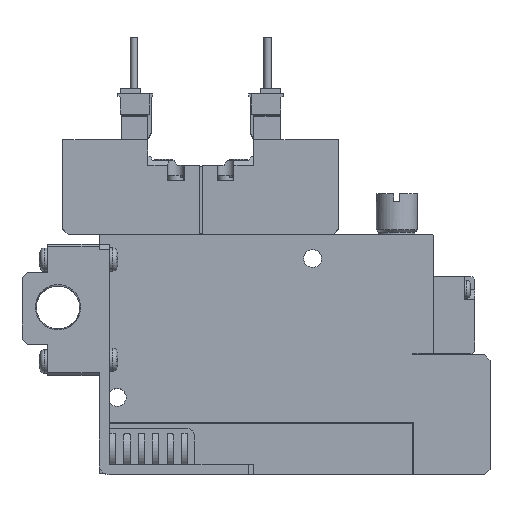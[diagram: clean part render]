
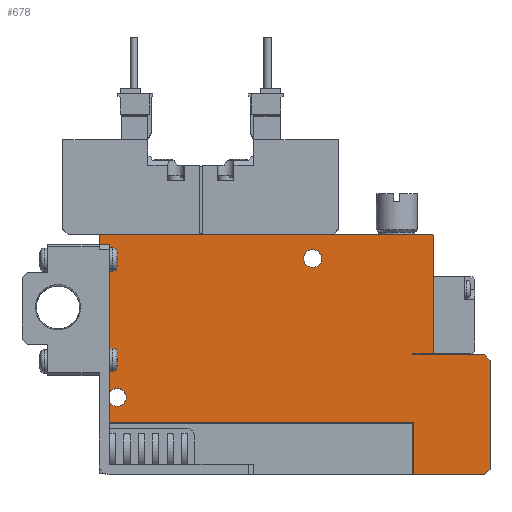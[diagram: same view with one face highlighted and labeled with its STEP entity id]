
A CAD part, top view. The second image highlights one B-rep face of the part: STEP entity #678.
In plain terms, the highlighted planar face has unit normal (0, 0, 1).
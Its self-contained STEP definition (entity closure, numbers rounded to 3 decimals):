
#678=ADVANCED_FACE('',(#1591,#1592,#1593),#1594,.F.);
#1591=FACE_OUTER_BOUND('',#2916,.T.);
#1592=FACE_BOUND('',#2917,.T.);
#1593=FACE_BOUND('',#2918,.T.);
#1594=PLANE('',#2919);
#2916=EDGE_LOOP('',(#5926,#5927,#5928,#5929,#5930,#5931,#5932,#5933,#5934,#5935,#5936,#5937,#5938,#5939));
#2917=EDGE_LOOP('',(#5940));
#2918=EDGE_LOOP('',(#5941));
#2919=AXIS2_PLACEMENT_3D('',#5942,#5943,#5944);
#5926=ORIENTED_EDGE('',*,*,#9169,.T.);
#5927=ORIENTED_EDGE('',*,*,#9170,.F.);
#5928=ORIENTED_EDGE('',*,*,#9136,.F.);
#5929=ORIENTED_EDGE('',*,*,#9171,.T.);
#5930=ORIENTED_EDGE('',*,*,#9172,.T.);
#5931=ORIENTED_EDGE('',*,*,#9173,.T.);
#5932=ORIENTED_EDGE('',*,*,#9174,.T.);
#5933=ORIENTED_EDGE('',*,*,#9175,.T.);
#5934=ORIENTED_EDGE('',*,*,#9167,.T.);
#5935=ORIENTED_EDGE('',*,*,#9176,.T.);
#5936=ORIENTED_EDGE('',*,*,#9177,.T.);
#5937=ORIENTED_EDGE('',*,*,#9178,.T.);
#5938=ORIENTED_EDGE('',*,*,#9179,.T.);
#5939=ORIENTED_EDGE('',*,*,#9180,.T.);
#5940=ORIENTED_EDGE('',*,*,#9112,.F.);
#5941=ORIENTED_EDGE('',*,*,#9181,.F.);
#5942=CARTESIAN_POINT('',(0.0,0.0,5.0));
#5943=DIRECTION('',(0.0,0.0,-1.0));
#5944=DIRECTION('',(0.0,-1.0,0.0));
#9112=EDGE_CURVE('',#11090,#11090,#11091,.T.);
#9136=EDGE_CURVE('',#11137,#11139,#11140,.T.);
#9167=EDGE_CURVE('',#11199,#11197,#11200,.T.);
#9169=EDGE_CURVE('',#11202,#11203,#11204,.T.);
#9170=EDGE_CURVE('',#11139,#11203,#11205,.T.);
#9171=EDGE_CURVE('',#11137,#11206,#11207,.T.);
#9172=EDGE_CURVE('',#11206,#11208,#11209,.T.);
#9173=EDGE_CURVE('',#11208,#11210,#11211,.T.);
#9174=EDGE_CURVE('',#11210,#11212,#11213,.T.);
#9175=EDGE_CURVE('',#11212,#11199,#11214,.T.);
#9176=EDGE_CURVE('',#11197,#11215,#11216,.T.);
#9177=EDGE_CURVE('',#11215,#11217,#11218,.T.);
#9178=EDGE_CURVE('',#11217,#11219,#11220,.T.);
#9179=EDGE_CURVE('',#11219,#11221,#11222,.T.);
#9180=EDGE_CURVE('',#11221,#11202,#11223,.T.);
#9181=EDGE_CURVE('',#11224,#11224,#11225,.T.);
#11090=VERTEX_POINT('',#14334);
#11091=CIRCLE('',#14335,1.75);
#11137=VERTEX_POINT('',#14416);
#11139=VERTEX_POINT('',#14419);
#11140=LINE('',#14420,#14421);
#11197=VERTEX_POINT('',#14524);
#11199=VERTEX_POINT('',#14527);
#11200=LINE('',#14528,#14529);
#11202=VERTEX_POINT('',#14532);
#11203=VERTEX_POINT('',#14533);
#11204=LINE('',#14534,#14535);
#11205=LINE('',#14536,#14537);
#11206=VERTEX_POINT('',#14538);
#11207=LINE('',#14539,#14540);
#11208=VERTEX_POINT('',#14541);
#11209=LINE('',#14542,#14543);
#11210=VERTEX_POINT('',#14544);
#11211=LINE('',#14545,#14546);
#11212=VERTEX_POINT('',#14547);
#11213=LINE('',#14548,#14549);
#11214=LINE('',#14550,#14551);
#11215=VERTEX_POINT('',#14552);
#11216=LINE('',#14553,#14554);
#11217=VERTEX_POINT('',#14555);
#11218=LINE('',#14556,#14557);
#11219=VERTEX_POINT('',#14558);
#11220=LINE('',#14559,#14560);
#11221=VERTEX_POINT('',#14561);
#11222=LINE('',#14562,#14563);
#11223=LINE('',#14564,#14565);
#11224=VERTEX_POINT('',#14566);
#11225=CIRCLE('',#14567,1.75);
#14334=CARTESIAN_POINT('',(5.25,15.0,5.0));
#14335=AXIS2_PLACEMENT_3D('',#17901,#17902,#17903);
#14416=CARTESIAN_POINT('',(61.1,0.0,5.0));
#14419=CARTESIAN_POINT('',(61.1,10.1,5.0));
#14420=CARTESIAN_POINT('',(61.1,0.0,5.0));
#14421=VECTOR('',#17935,1.0);
#14524=CARTESIAN_POINT('',(61.0,23.5,5.0));
#14527=CARTESIAN_POINT('',(61.0,23.25,5.0));
#14528=CARTESIAN_POINT('',(61.0,23.25,5.0));
#14529=VECTOR('',#17979,1.0);
#14532=CARTESIAN_POINT('',(0.0,46.4,5.0));
#14533=CARTESIAN_POINT('',(0.0,10.1,5.0));
#14534=CARTESIAN_POINT('',(0.0,46.4,5.0));
#14535=VECTOR('',#17981,1.0);
#14536=CARTESIAN_POINT('',(61.1,10.1,5.0));
#14537=VECTOR('',#17982,1.0);
#14538=CARTESIAN_POINT('',(75.0,0.0,5.0));
#14539=CARTESIAN_POINT('',(0.0,0.0,5.0));
#14540=VECTOR('',#17983,1.0);
#14541=CARTESIAN_POINT('',(76.0,1.0,5.0));
#14542=CARTESIAN_POINT('',(75.0,0.0,5.0));
#14543=VECTOR('',#17984,1.0);
#14544=CARTESIAN_POINT('',(76.0,22.25,5.0));
#14545=CARTESIAN_POINT('',(76.0,1.0,5.0));
#14546=VECTOR('',#17985,1.0);
#14547=CARTESIAN_POINT('',(75.0,23.25,5.0));
#14548=CARTESIAN_POINT('',(76.0,22.25,5.0));
#14549=VECTOR('',#17986,1.0);
#14550=CARTESIAN_POINT('',(75.0,23.25,5.0));
#14551=VECTOR('',#17987,1.0);
#14552=CARTESIAN_POINT('',(65.0,23.5,5.0));
#14553=CARTESIAN_POINT('',(61.0,23.5,5.0));
#14554=VECTOR('',#17988,1.0);
#14555=CARTESIAN_POINT('',(65.0,46.4,5.0));
#14556=CARTESIAN_POINT('',(65.0,23.5,5.0));
#14557=VECTOR('',#17989,1.0);
#14558=CARTESIAN_POINT('',(64.8,46.6,5.0));
#14559=CARTESIAN_POINT('',(65.0,46.4,5.0));
#14560=VECTOR('',#17990,1.0);
#14561=CARTESIAN_POINT('',(0.2,46.6,5.0));
#14562=CARTESIAN_POINT('',(64.8,46.6,5.0));
#14563=VECTOR('',#17991,1.0);
#14564=CARTESIAN_POINT('',(0.2,46.6,5.0));
#14565=VECTOR('',#17992,1.0);
#14566=CARTESIAN_POINT('',(43.25,42.0,5.0));
#14567=AXIS2_PLACEMENT_3D('',#17993,#17994,#17995);
#17901=CARTESIAN_POINT('',(3.5,15.0,5.0));
#17902=DIRECTION('',(0.0,0.0,1.0));
#17903=DIRECTION('',(1.0,0.0,0.0));
#17935=DIRECTION('',(0.0,1.0,0.0));
#17979=DIRECTION('',(0.0,1.0,0.0));
#17981=DIRECTION('',(0.0,-1.0,0.0));
#17982=DIRECTION('',(-1.0,0.0,0.0));
#17983=DIRECTION('',(1.0,0.0,0.0));
#17984=DIRECTION('',(0.707,0.707,0.0));
#17985=DIRECTION('',(0.0,1.0,0.0));
#17986=DIRECTION('',(-0.707,0.707,0.0));
#17987=DIRECTION('',(-1.0,0.0,0.0));
#17988=DIRECTION('',(1.0,0.,0.0));
#17989=DIRECTION('',(0.0,1.0,0.0));
#17990=DIRECTION('',(-0.707,0.707,0.0));
#17991=DIRECTION('',(-1.0,0.0,0.0));
#17992=DIRECTION('',(-0.707,-0.707,0.0));
#17993=CARTESIAN_POINT('',(41.5,42.0,5.0));
#17994=DIRECTION('',(0.0,0.0,1.0));
#17995=DIRECTION('',(1.0,0.0,0.0));
